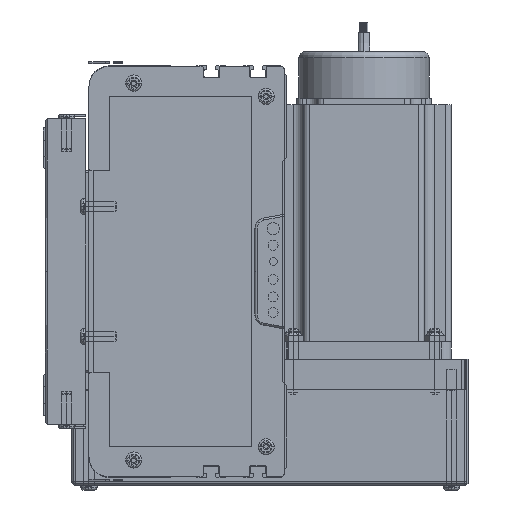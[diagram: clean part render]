
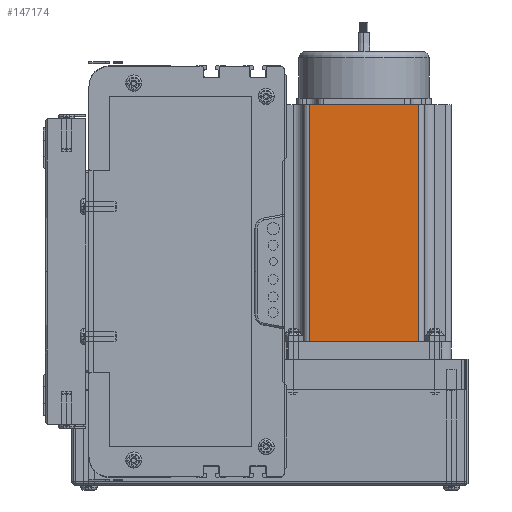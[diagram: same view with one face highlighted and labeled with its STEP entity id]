
A CAD part, left-side view. The second image highlights one B-rep face of the part: STEP entity #147174.
In plain terms, the highlighted planar face has unit normal (-1, 0, 0) as drawn and (0, -1, 0) by its records, which use the part's own axes.
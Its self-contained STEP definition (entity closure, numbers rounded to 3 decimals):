
#1336 = DIRECTION ( 'NONE',  ( 1., 0., 0. ) ) ;
#1476 = CARTESIAN_POINT ( 'NONE',  ( 16.16, 0., 0. ) ) ;
#2902 = CARTESIAN_POINT ( 'NONE',  ( 69.74, 0., 0. ) ) ;
#3296 = VECTOR ( 'NONE', #3457, 1000. ) ;
#3299 = CARTESIAN_POINT ( 'NONE',  ( 0., 0., 116.5 ) ) ;
#3454 = CARTESIAN_POINT ( 'NONE',  ( 16.16, 0., 116.5 ) ) ;
#3457 = DIRECTION ( 'NONE',  ( 1., 0., 0. ) ) ;
#3479 = LINE ( 'NONE', #3299, #3296 ) ;
#4695 = CARTESIAN_POINT ( 'NONE',  ( 69.74, 0., 116.5 ) ) ;
#4696 = DIRECTION ( 'NONE',  ( 0., 0., -1. ) ) ;
#4697 = VECTOR ( 'NONE', #4696, 1000. ) ;
#4705 = CARTESIAN_POINT ( 'NONE',  ( 16.16, 0., 116.5 ) ) ;
#4707 = LINE ( 'NONE', #4705, #4697 ) ;
#4845 = DIRECTION ( 'NONE',  ( 0., 0., 1. ) ) ;
#4847 = DIRECTION ( 'NONE',  ( 0., 1., 0. ) ) ;
#4849 = CARTESIAN_POINT ( 'NONE',  ( 0., 0., 116.5 ) ) ;
#4851 = VECTOR ( 'NONE', #1336, 1000. ) ;
#4853 = CARTESIAN_POINT ( 'NONE',  ( 0., 0., 0. ) ) ;
#4854 = LINE ( 'NONE', #4853, #4851 ) ;
#4880 = PLANE ( 'NONE',  #4888 ) ;
#4888 = AXIS2_PLACEMENT_3D ( 'NONE', #4849, #4847, #4845 ) ;
#4898 = FACE_OUTER_BOUND ( 'NONE', #147048, .T. ) ;
#6658 = DIRECTION ( 'NONE',  ( 0., 0., 1. ) ) ;
#6659 = VECTOR ( 'NONE', #6658, 1000. ) ;
#6660 = CARTESIAN_POINT ( 'NONE',  ( 69.74, 0., 116.5 ) ) ;
#6661 = LINE ( 'NONE', #6660, #6659 ) ;
#146244 = VERTEX_POINT ( 'NONE', #1476 ) ;
#146612 = VERTEX_POINT ( 'NONE', #2902 ) ;
#146777 = ORIENTED_EDGE ( 'NONE', *, *, #146780, .F. ) ;
#146780 = EDGE_CURVE ( 'NONE', #146782, #147128, #3479, .T. ) ;
#146782 = VERTEX_POINT ( 'NONE', #3454 ) ;
#147048 = EDGE_LOOP ( 'NONE', ( #147177, #147176, #146777, #147551 ) ) ;
#147125 = EDGE_CURVE ( 'NONE', #146782, #146244, #4707, .T. ) ;
#147128 = VERTEX_POINT ( 'NONE', #4695 ) ;
#147174 = ADVANCED_FACE ( 'NONE', ( #4898 ), #4880, .F. ) ;
#147176 = ORIENTED_EDGE ( 'NONE', *, *, #147503, .T. ) ;
#147177 = ORIENTED_EDGE ( 'NONE', *, *, #147186, .T. ) ;
#147186 = EDGE_CURVE ( 'NONE', #146244, #146612, #4854, .T. ) ;
#147503 = EDGE_CURVE ( 'NONE', #146612, #147128, #6661, .T. ) ;
#147551 = ORIENTED_EDGE ( 'NONE', *, *, #147125, .T. ) ;
